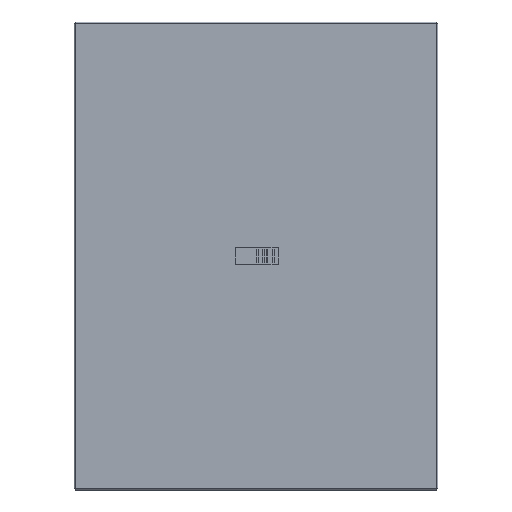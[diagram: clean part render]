
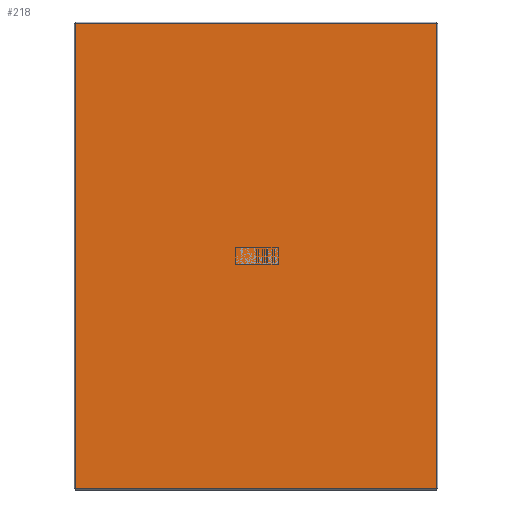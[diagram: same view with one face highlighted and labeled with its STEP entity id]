
A CAD part, top view. The second image highlights one B-rep face of the part: STEP entity #218.
In plain terms, the highlighted planar face has unit normal (0, 0, 1).
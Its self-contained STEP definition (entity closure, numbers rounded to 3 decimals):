
#218 = ADVANCED_FACE( '', ( #342 ), #343, .T. );
#342 = FACE_OUTER_BOUND( '', #526, .T. );
#343 = PLANE( '', #527 );
#526 = EDGE_LOOP( '', ( #1031, #1032, #1033, #1034 ) );
#527 = AXIS2_PLACEMENT_3D( '', #1035, #1036, #1037 );
#1031 = ORIENTED_EDGE( '', *, *, #1526, .T. );
#1032 = ORIENTED_EDGE( '', *, *, #1527, .T. );
#1033 = ORIENTED_EDGE( '', *, *, #1528, .T. );
#1034 = ORIENTED_EDGE( '', *, *, #1529, .T. );
#1035 = CARTESIAN_POINT( '', ( -355.6, -457.2, 0. ) );
#1036 = DIRECTION( '', ( 0., 0., 1. ) );
#1037 = DIRECTION( '', ( 1., 0., 0. ) );
#1526 = EDGE_CURVE( '', #1784, #1785, #1786, .T. );
#1527 = EDGE_CURVE( '', #1785, #1779, #1787, .T. );
#1528 = EDGE_CURVE( '', #1779, #1788, #1789, .T. );
#1529 = EDGE_CURVE( '', #1788, #1784, #1790, .T. );
#1779 = VERTEX_POINT( '', #2174 );
#1784 = VERTEX_POINT( '', #2180 );
#1785 = VERTEX_POINT( '', #2181 );
#1786 = LINE( '', #2182, #2183 );
#1787 = LINE( '', #2184, #2185 );
#1788 = VERTEX_POINT( '', #2186 );
#1789 = LINE( '', #2187, #2188 );
#1790 = LINE( '', #2189, #2190 );
#2174 = CARTESIAN_POINT( '', ( -353.416, -455.016, 0. ) );
#2180 = CARTESIAN_POINT( '', ( 353.416, 455.016, 0. ) );
#2181 = CARTESIAN_POINT( '', ( -353.416, 455.016, 0. ) );
#2182 = CARTESIAN_POINT( '', ( 355.6, 455.016, 0. ) );
#2183 = VECTOR( '', #2702, 1000. );
#2184 = CARTESIAN_POINT( '', ( -353.416, 455.016, 0. ) );
#2185 = VECTOR( '', #2703, 1000. );
#2186 = CARTESIAN_POINT( '', ( 353.416, -455.016, 0. ) );
#2187 = CARTESIAN_POINT( '', ( -355.6, -455.016, 0. ) );
#2188 = VECTOR( '', #2704, 1000. );
#2189 = CARTESIAN_POINT( '', ( 353.416, -455.016, 0. ) );
#2190 = VECTOR( '', #2705, 1000. );
#2702 = DIRECTION( '', ( -1., 0., 0. ) );
#2703 = DIRECTION( '', ( 0., -1., 0. ) );
#2704 = DIRECTION( '', ( 1., 0., 0. ) );
#2705 = DIRECTION( '', ( 0., 1., 0. ) );
